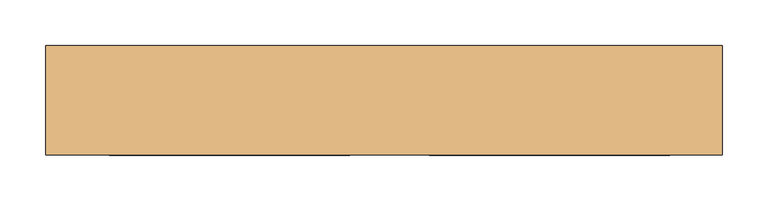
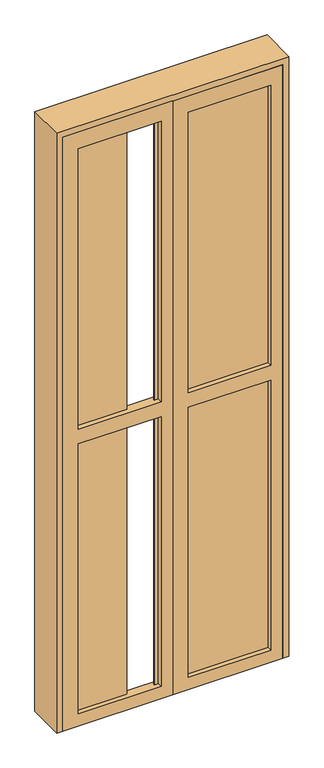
"""IFC4 building model written with IfcOpenShell, lengths in millimetres: door geometry, 木製_折戸2枚_フラッシュ(UB) : UB-1 w600h2000."""

import ifcopenshell
import ifcopenshell.guid

model = None  # the IFC model being written
_history = None  # IfcOwnerHistory: only IFC2X3 demands one
_inside = {}  # id of a spatial element -> (the spatial element, [elements in it])
_under = {}  # id of a project, library or spatial element -> (it, [spatial elements below it])
_declared = {}  # id of a project -> (the project, [libraries it declares])
_typed = {}  # id of a type object -> (the type object, [elements of that type])
_made_of = {}  # id of a material, layer set ... -> (it, [elements and type objects made of it])


def new_model(schema):
    """Start an empty IFC model of exactly this schema.

    Asked for "IFC4X3", IfcOpenShell would pick the latest addendum, in which some entities
    have other attributes; the version numbers below select the first issue.
    IFC2X3 requires an IfcOwnerHistory on every rooted entity: one is made here for all.
    """
    global model, _history
    if schema == "IFC4X3":
        model = ifcopenshell.file(schema_version=(4, 3, 0, 0))
    else:
        model = ifcopenshell.file(schema=schema)
    _inside.clear()
    _under.clear()
    _declared.clear()
    _typed.clear()
    _made_of.clear()
    _history = None
    if model.schema == "IFC2X3":
        org = make("IfcOrganization", Name="unknown")
        user = make(
            "IfcPersonAndOrganization",
            ThePerson=make("IfcPerson", FamilyName="unknown"),
            TheOrganization=org,
        )
        app = make(
            "IfcApplication",
            ApplicationDeveloper=org,
            Version="unknown",
            ApplicationFullName="unknown",
            ApplicationIdentifier="unknown",
        )
        _history = make(
            "IfcOwnerHistory",
            OwningUser=user,
            OwningApplication=app,
            ChangeAction="ADDED",
            CreationDate=0,
        )
    return model


def make(cls, **values):
    """One entity of the class cls with the attributes given. An attribute that is None is left unset."""
    return model.create_entity(
        cls, **{name: value for name, value in values.items() if value is not None}
    )


def rooted(cls, **values):
    """An entity with a GlobalId (a new one), such as an element, a storey or a relation."""
    return make(cls, GlobalId=ifcopenshell.guid.new(), OwnerHistory=_history, **values)


def si_unit(unit_type, name, prefix=None):
    """IfcSIUnit, for example si_unit("LENGTHUNIT", "METRE", prefix="MILLI")."""
    return make("IfcSIUnit", UnitType=unit_type, Prefix=prefix, Name=name)


def assignment(units):
    """IfcUnitAssignment: the units of a project."""
    return None if units is None else make("IfcUnitAssignment", Units=units)


def point(xyz):
    """IfcCartesianPoint."""
    return None if xyz is None else make("IfcCartesianPoint", Coordinates=xyz)


def direction(xyz):
    """IfcDirection."""
    return None if xyz is None else make("IfcDirection", DirectionRatios=xyz)


def frame(location, z_axis=None, x_axis=None):
    """IfcAxis2Placement3D, a coordinate frame: its origin and axes. An axis left out is left unset."""
    return make(
        "IfcAxis2Placement3D",
        Location=point(location),
        Axis=direction(z_axis),
        RefDirection=direction(x_axis),
    )


def origin():
    """The frame at (0, 0, 0) with its axes left unset."""
    return frame((0.0, 0.0, 0.0))


def place(relative_to, where):
    """IfcLocalPlacement: puts the frame where relative to a parent placement (None: the world)."""
    return make(
        "IfcLocalPlacement", PlacementRelTo=relative_to, RelativePlacement=where
    )


def context(
    kind, dimensions, precision=None, world=None, true_north=None, identifier=None
):
    """IfcGeometricRepresentationContext, for example the 3D "Model" context."""
    return make(
        "IfcGeometricRepresentationContext",
        ContextIdentifier=identifier,
        ContextType=kind,
        CoordinateSpaceDimension=dimensions,
        Precision=precision,
        WorldCoordinateSystem=world,
        TrueNorth=true_north,
    )


def project(units=None, contexts=None):
    """IfcProject with its units and contexts."""
    return rooted(
        "IfcProject",
        Name="project",
        RepresentationContexts=contexts,
        UnitsInContext=assignment(units),
    )


def spatial(cls, under=None, at=None, **own):
    """A site, building, storey or space (cls), placed at a placement, below another one or the project."""
    s = rooted(cls, ObjectPlacement=at, **own)
    if under is not None:
        _under.setdefault(under.id(), (under, []))[1].append(s)
    return s


def polyline(points):
    """IfcPolyline through the points."""
    return make("IfcPolyline", Points=[point(p) for p in points])


def outline(outer, holes=None, kind="AREA"):
    """IfcArbitraryClosedProfileDef: a profile drawn as a closed curve; with holes, ...WithVoids."""
    if holes is None:
        return make("IfcArbitraryClosedProfileDef", ProfileType=kind, OuterCurve=outer)
    return make(
        "IfcArbitraryProfileDefWithVoids",
        ProfileType=kind,
        OuterCurve=outer,
        InnerCurves=holes,
    )


def extrude(swept, where, along, depth):
    """IfcExtrudedAreaSolid: the profile swept, set in the frame where, extruded along a direction by depth."""
    return make(
        "IfcExtrudedAreaSolid",
        SweptArea=swept,
        Position=where,
        ExtrudedDirection=direction(along),
        Depth=depth,
    )


def shape(context_of_items, identifier, shape_type, items):
    """IfcShapeRepresentation: the items that make up one representation, for example the "Body"."""
    return make(
        "IfcShapeRepresentation",
        ContextOfItems=context_of_items,
        RepresentationIdentifier=identifier,
        RepresentationType=shape_type,
        Items=items,
    )


def source(mapping_origin, context_of_items, identifier, shape_type, items):
    """IfcRepresentationMap: a shape defined once, which mapped items show again and again."""
    return make(
        "IfcRepresentationMap",
        MappingOrigin=mapping_origin,
        MappedRepresentation=shape(context_of_items, identifier, shape_type, items),
    )


def transform(
    local_origin,
    x_axis=None,
    y_axis=None,
    z_axis=None,
    scale=None,
    scale2=None,
    scale3=None,
    uniform=True,
):
    """IfcCartesianTransformationOperator3D, or its non-uniform kind. x_axis, y_axis, z_axis: its Axis1, 2, 3."""
    if uniform:
        return make(
            "IfcCartesianTransformationOperator3D",
            Axis1=direction(x_axis),
            Axis2=direction(y_axis),
            LocalOrigin=point(local_origin),
            Scale=scale,
            Axis3=direction(z_axis),
        )
    return make(
        "IfcCartesianTransformationOperator3DnonUniform",
        Axis1=direction(x_axis),
        Axis2=direction(y_axis),
        LocalOrigin=point(local_origin),
        Scale=scale,
        Axis3=direction(z_axis),
        Scale2=scale2,
        Scale3=scale3,
    )


def mapped(mapping_source, mapping_target):
    """IfcMappedItem: shows the shape of a source again, moved by a transform."""
    return make(
        "IfcMappedItem", MappingSource=mapping_source, MappingTarget=mapping_target
    )


def made_of(thing, what):
    """Note that an element or type object is made of a material, layer set ...; save() writes the relation."""
    if what is not None:
        _made_of.setdefault(what.id(), (what, []))[1].append(thing)
    return thing


def element(
    cls,
    number,
    at=None,
    inside=None,
    cuts=None,
    type_object=None,
    material=None,
    context=None,
    identifier="Body",
    shape_type=None,
    held_by="IfcProductDefinitionShape",
    body=None,
    shapes=None,
    **own,
):
    """One element of the class cls, such as IfcWall. Its Tag is "e" and its number.

    at: its placement. inside: the storey or other place that contains it. cuts: it is an
    opening in that element (IfcRelVoidsElement). A single representation is given by context,
    identifier, shape_type and body (its items); several are given by shapes. held_by: the class
    of the entity that holds the representations. save() writes the other relations.
    """
    e = rooted(cls, Tag="e%d" % number, ObjectPlacement=at, **own)
    if body is not None:
        shapes = [shape(context, identifier, shape_type, body)]
    if shapes is not None:
        e.Representation = make(held_by, Representations=shapes)
    if inside is not None:
        _inside.setdefault(inside.id(), (inside, []))[1].append(e)
    if cuts is not None:
        rooted(
            "IfcRelVoidsElement", RelatingBuildingElement=cuts, RelatedOpeningElement=e
        )
    if type_object is not None:
        _typed.setdefault(type_object.id(), (type_object, []))[1].append(e)
    return made_of(e, material)


def aggregate(whole, parts):
    """IfcRelAggregates: a whole, such as a stair, and the parts it consists of."""
    return rooted("IfcRelAggregates", RelatingObject=whole, RelatedObjects=parts)


def save(model, path):
    """Write the relations noted so far, then the file.

    IfcRelAggregates (storeys below a building ...), IfcRelContainedInSpatialStructure (elements
    in a storey), IfcRelDefinesByType, IfcRelAssociatesMaterial and IfcRelDeclares: one each for
    every whole, place, type object, material and project.
    """
    for whole, parts in _under.values():
        aggregate(whole, parts)
    for where, things in _inside.values():
        rooted(
            "IfcRelContainedInSpatialStructure",
            RelatedElements=things,
            RelatingStructure=where,
        )
    for kind, things in _typed.values():
        rooted("IfcRelDefinesByType", RelatedObjects=things, RelatingType=kind)
    for what, things in _made_of.values():
        rooted("IfcRelAssociatesMaterial", RelatedObjects=things, RelatingMaterial=what)
    for by, libraries in _declared.values():
        rooted("IfcRelDeclares", RelatingContext=by, RelatedDefinitions=libraries)
    model.write(path)


def door_6eb1cc95(model_context):
    return source(origin(), model_context, "Body", "SweptSolid", [
        extrude(outline(polyline([(2000.0, 0.0), (2000.0, -350.0), (0.0, -350.0), (0.0, 0.0), (2000.0, 0.0)]), holes=[polyline([(1943.7512282, -300.6069154), (1943.7512282, -37.4435153), (1000.0, -37.4435153), (1000.0, -300.6069154), (1943.7512282, -300.6069154)]), polyline([(950.0, -300.6069154), (950.0, -37.4435153), (40.5708709, -37.4435153), (40.5708709, -300.6069154), (950.0, -300.6069154)])]), frame((0.0, -60.0, 0.0), z_axis=(0.0, 1.0, 0.0), x_axis=(0.0, 0.0, 1.0)), (0.0, 0.0, 1.0), 30.0),
        extrude(outline(polyline([(2020.0, -370.0), (0.0, -370.0), (0.0, -350.0), (2000.0, -350.0), (2000.0, 350.0), (0.0, 350.0), (0.0, 370.0), (2020.0, 370.0), (2020.0, -370.0)])), frame((0.0, -60.0, 0.0), z_axis=(0.0, 1.0, 0.0), x_axis=(0.0, 0.0, 1.0)), (0.0, 0.0, 1.0), 120.0),
        extrude(outline(polyline([(2000.0, 350.0), (2000.0, 0.0), (0.0, 0.0), (0.0, 350.0), (2000.0, 350.0)]), holes=[polyline([(1943.7512282, 49.3930846), (1943.7512282, 312.5564847), (1000.0, 312.5564847), (1000.0, 49.3930846), (1943.7512282, 49.3930846)]), polyline([(950.0, 49.3930846), (950.0, 312.5564847), (40.5708709, 312.5564847), (40.5708709, 49.3930846), (950.0, 49.3930846)])]), frame((0.0, -60.0, 0.0), z_axis=(0.0, 1.0, 0.0), x_axis=(0.0, 0.0, 1.0)), (0.0, 0.0, 1.0), 30.0),
        extrude(outline(polyline([(-50.6069154, -45.0), (-50.6069154, -42.0), (312.5564847, -42.0), (312.5564847, -45.0), (-50.6069154, -45.0)])), frame((0.0, 0.0, 1000.0), z_axis=(0.0, 0.0, 1.0), x_axis=(1.0, 0.0, 0.0)), (0.0, 0.0, 1.0), 943.7512282),
        extrude(outline(polyline([(-50.6069154, -45.0), (-50.6069154, -42.0), (312.5564847, -42.0), (312.5564847, -45.0), (-50.6069154, -45.0)])), frame((0.0, 0.0, 40.5708709), z_axis=(0.0, 0.0, 1.0), x_axis=(1.0, 0.0, 0.0)), (0.0, 0.0, 1.0), 909.4291291),
        extrude(outline(polyline([(-300.6069154, -45.0), (-300.6069154, -42.0), (-137.4435153, -42.0), (-137.4435153, -45.0), (-300.6069154, -45.0)])), frame((0.0, 0.0, 1000.0), z_axis=(0.0, 0.0, 1.0), x_axis=(1.0, 0.0, 0.0)), (0.0, 0.0, 1.0), 943.7512282),
        extrude(outline(polyline([(-300.6069154, -45.0), (-300.6069154, -42.0), (-137.4435153, -42.0), (-137.4435153, -45.0), (-300.6069154, -45.0)])), frame((0.0, 0.0, 40.5708709), z_axis=(0.0, 0.0, 1.0), x_axis=(1.0, 0.0, 0.0)), (0.0, 0.0, 1.0), 909.4291291),
    ])


if __name__ == "__main__":
    model = new_model("IFC4")
    model_context = context("Model", 3, world=origin())
    ifc_project = project(units=[si_unit("LENGTHUNIT", "METRE", prefix="MILLI")], contexts=[model_context])
    site = spatial("IfcSite", under=ifc_project)
    building = spatial("IfcBuilding", under=site)
    placement = place(None, origin())
    door_shape = door_6eb1cc95(model_context)
    element("IfcDoor", 1, ObjectType="木製_折戸2枚_フラッシュ(UB) : UB-1 w600h2000", at=placement, inside=building, context=model_context, shape_type="MappedRepresentation", body=[
        mapped(door_shape, transform((0.0, 0.0, 0.0), x_axis=(1.0, 0.0, 0.0), y_axis=(0.0, 1.0, 0.0), z_axis=(0.0, 0.0, 1.0))),
    ])
    save(model, "model.ifc")
